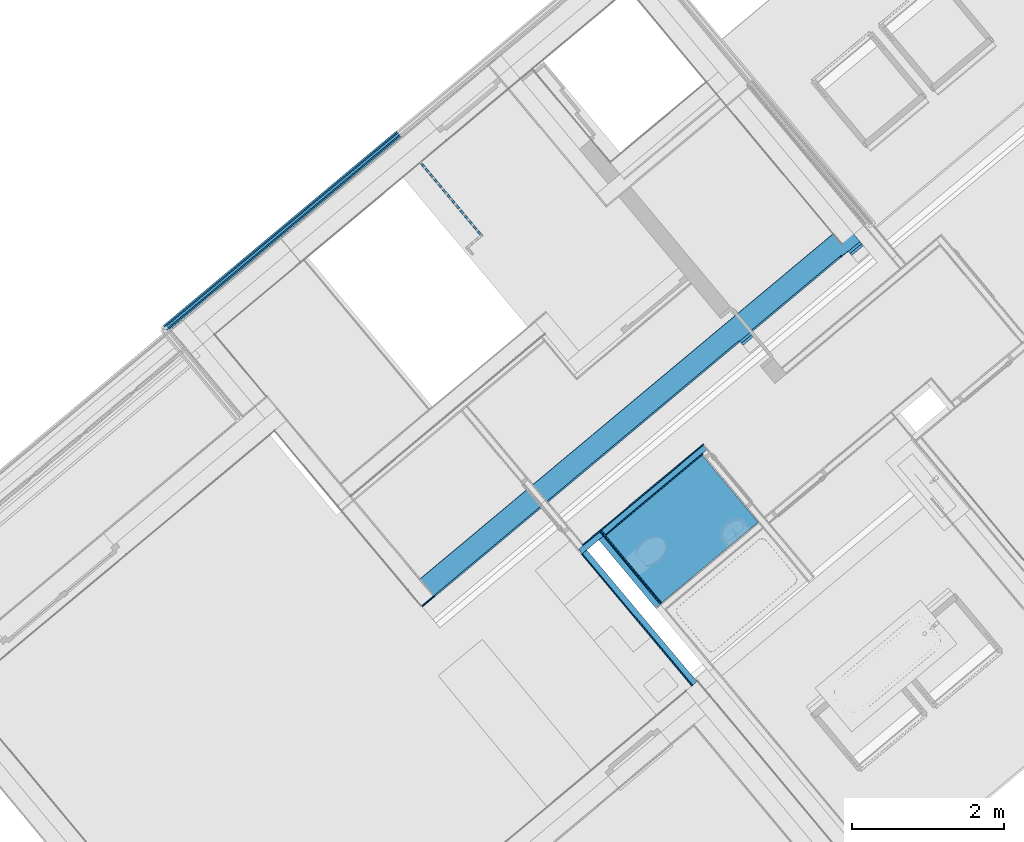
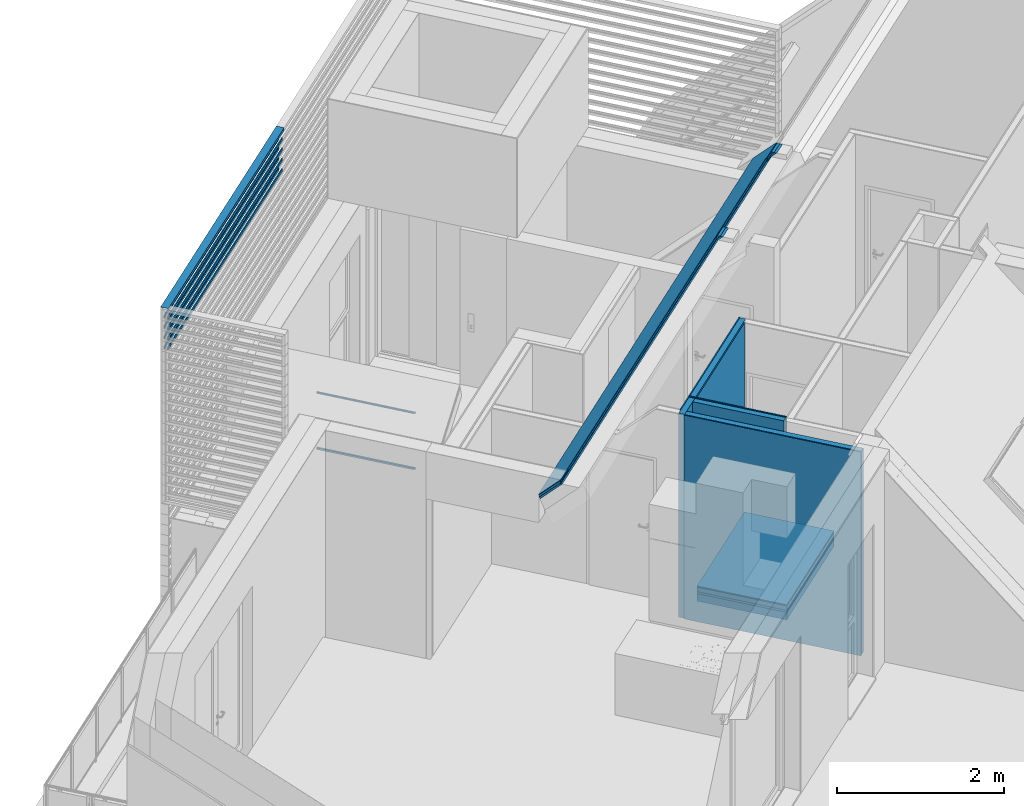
# One storey, part 23 of 47: 24 building element parts, 8 elements without a shape of their own.
"""IFC4 building model written with IfcOpenShell, lengths in metres."""

from ifc_helpers import new_model, entity, si_unit, converted_unit, derived_unit, direction, frame, origin_with_axes, place, context, subcontext, project, spatial, polygons, material, type_object, element, aggregate, save


model = new_model("IFC4")

# Units and contexts
model_context = context("Model", 3, precision=1e-05, world=origin_with_axes(), true_north=direction((0.0, 1.0)))
body_context = subcontext(model_context, "Body", "Model", "MODEL_VIEW")
ifc_project = project(units=[si_unit("LENGTHUNIT", "METRE"), si_unit("AREAUNIT", "SQUARE_METRE"), si_unit("VOLUMEUNIT", "CUBIC_METRE"), converted_unit("PLANEANGLEUNIT", "DEGREE", entity("IfcPlaneAngleMeasure", 0.0174532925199), si_unit("PLANEANGLEUNIT", "RADIAN"), dimensions=[0, 0, 0, 0, 0, 0, 0]), converted_unit("TIMEUNIT", "Year", entity("IfcTimeMeasure", 31556926.0), si_unit("TIMEUNIT", "SECOND"), dimensions=[0, 0, 1, 0, 0, 0, 0]), si_unit("MASSUNIT", "GRAM", prefix="KILO"), si_unit("THERMODYNAMICTEMPERATUREUNIT", "DEGREE_CELSIUS"), si_unit("LUMINOUSINTENSITYUNIT", "LUMEN"), si_unit("ENERGYUNIT", "JOULE", prefix="MEGA"), derived_unit("THERMALCONDUCTANCEUNIT", [(si_unit("POWERUNIT", "WATT"), 1), (si_unit("LENGTHUNIT", "METRE"), -1), (si_unit("THERMODYNAMICTEMPERATUREUNIT", "KELVIN"), -1)]), derived_unit("SPECIFICHEATCAPACITYUNIT", [(si_unit("ENERGYUNIT", "JOULE"), 1), (si_unit("MASSUNIT", "GRAM", prefix="KILO"), -1), (si_unit("THERMODYNAMICTEMPERATUREUNIT", "KELVIN"), -1)]), derived_unit("MASSDENSITYUNIT", [(si_unit("MASSUNIT", "GRAM", prefix="KILO"), 1), (si_unit("VOLUMEUNIT", "CUBIC_METRE"), -1)])], contexts=[model_context])

# Site, building, storey
site_placement = place(None, frame((-0.00153261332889, -0.00661245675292, 0.0), z_axis=(0.0, 0.0, 1.0), x_axis=(1.0, 0.0, 0.0)))
site = spatial("IfcSite", under=ifc_project, at=site_placement, Name="Site", CompositionType="ELEMENT")
building_placement = place(site_placement, origin_with_axes())
building = spatial("IfcBuilding", under=site, at=building_placement, Name="Building", CompositionType="ELEMENT")
storey_placement = place(building_placement, frame((0.0, 0.0, 8.66), z_axis=(0.0, 0.0, 1.0), x_axis=(1.0, 0.0, 0.0)))
storey = spatial("IfcBuildingStorey", under=building, at=storey_placement, Name="DG2", CompositionType="ELEMENT", Elevation=8.66)

# Roof, building element parts
roof_type = type_object("IfcRoofType", Name="Schrägdach Dachaufbau 210", PredefinedType="NOTDEFINED")
roof_placement = place(storey_placement, frame((-2.48918849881, 20.2772455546, 1.00050884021), z_axis=(0.0, 0.0, 1.0), x_axis=(0.767406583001, 0.641160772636, 0.0)))
roof = element("IfcRoof", 1, at=roof_placement, inside=storey, type_object=roof_type, Name="Dach-001", PredefinedType="NOTDEFINED")
ifc_material_1 = material(Name="Stehfalz")
building_element_part_1_placement = place(roof_placement, origin_with_axes())
building_element_part_1 = element("IfcBuildingElementPart", 2, at=building_element_part_1_placement, material=ifc_material_1, Name="Stehfalz", PredefinedType="NOTDEFINED", context=body_context, shape_type="Tessellation", body=[
    polygons([(7.36386656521, -1.90145997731, 2.19844482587), (7.69582473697, -1.90143888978, 2.19842373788), (7.69585686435, -1.59945626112, 1.89644110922), (0.21534161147, -1.5994911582, 1.8964760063), (0.215455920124, -1.9019140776, 2.1988989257), (0.43012079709, -1.90190044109, 2.19888528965), (0.430119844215, -1.88690041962, 2.18388526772), (7.36387213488, -1.88645995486, 2.18344480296), (7.69582521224, -1.90143888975, 2.18949115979), (7.36386656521, -1.90145997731, 2.18430269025), (7.4959184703, -1.90145158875, 2.18429430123), (7.49591847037, -1.90145158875, 2.18949115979), (7.69582493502, -1.90664844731, 2.18949115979), (7.69585717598, -1.60359839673, 1.88644110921), (0.215340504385, -1.60363329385, 1.88647600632), (0.215453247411, -1.90191407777, 2.18475679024), (0.215447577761, -1.88691405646, 2.16975676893), (0.215449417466, -1.8869140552, 2.1794911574), (0.215451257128, -1.89664844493, 2.17949115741), (0.430120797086, -1.90190044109, 2.18474315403), (0.430120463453, -1.89664844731, 2.17949115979), (0.430119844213, -1.88690041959, 2.17949115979), (5.8452008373, -1.88655642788, 2.16939914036), (7.39592402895, -1.88645791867, 2.16930063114), (7.39592402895, -1.88645791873, 2.17818655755), (7.36482942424, -1.88645989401, 2.17818656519), (7.36387213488, -1.88645995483, 2.17914383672), (5.64520081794, -1.88656913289, 2.16941184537), (5.64520081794, -1.88656913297, 2.17949115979), (5.8452008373, -1.88655642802, 2.17949115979), (7.36386848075, -1.89630112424, 2.17914383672), (7.36482612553, -1.89534385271, 2.17818656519), (7.39592072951, -1.89534384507, 2.17818655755), (5.84519699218, -1.89664844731, 2.17949115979), (5.64519697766, -1.89664844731, 2.17949115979), (7.49591654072, -1.90664844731, 2.18949115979)], [[[1, 2, 3, 4, 5, 6, 7, 8]], [[9, 2, 1, 10, 11, 12]], [[2, 9, 13, 14, 3]], [[4, 3, 14, 15]], [[16, 5, 4, 15, 17, 18, 19]], [[20, 6, 5, 16]], [[6, 20, 21, 22, 7]], [[23, 24, 25, 26, 27, 8, 7, 22, 18, 17, 28, 29, 30]], [[10, 1, 8, 27, 31]], [[11, 10, 31, 32, 33, 24, 23, 34, 35, 28, 17, 15, 14, 13, 36]], [[11, 36, 12]], [[36, 13, 9, 12]], [[21, 19, 18, 22]], [[20, 16, 19, 21]], [[24, 33, 25]], [[33, 32, 26, 25]], [[32, 31, 27, 26]], [[28, 35, 29]], [[35, 34, 30, 29]], [[34, 23, 30]]], closed=True),
])
ifc_material_2 = material(Name="Bauholz")
building_element_part_2_placement = place(roof_placement, origin_with_axes())
building_element_part_2 = element("IfcBuildingElementPart", 3, at=building_element_part_2_placement, material=ifc_material_2, Name="Bauholz", PredefinedType="NOTDEFINED", context=body_context, shape_type="Tessellation", body=[
    polygons([(0.215453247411, -1.90191407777, 2.18475679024), (0.430120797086, -1.90190044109, 2.18474315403), (0.430120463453, -1.89664844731, 2.17949115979), (0.215451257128, -1.89664844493, 2.17949115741), (0.430120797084, -1.90190044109, 2.17949115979), (0.215452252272, -1.90191407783, 2.1794911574)], [[[1, 2, 3, 4]], [[5, 2, 1, 6]], [[2, 5, 3]], [[5, 6, 4, 3]], [[6, 1, 4]]], closed=True),
    polygons([(7.49591846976, -1.90145158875, 2.14893896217), (7.39591845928, -1.90145794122, 2.1489453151), (7.39592402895, -1.8864579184, 2.13394529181), (5.8452008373, -1.8865564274, 2.13404380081), (5.84518352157, -1.93200378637, 2.17949115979), (5.64518350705, -1.93200378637, 2.17949115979), (5.64520081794, -1.88656913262, 2.13405650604), (0.215440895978, -1.8869140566, 2.13440143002), (0.215337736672, -1.61398863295, 1.86147600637), (7.69585795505, -1.61395373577, 1.86144110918), (7.69582305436, -1.94200378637, 2.18949115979), (7.4959034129, -1.94200378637, 2.18949115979), (7.4959184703, -1.90145158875, 2.18429430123), (7.36386656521, -1.90145997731, 2.18430269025), (7.36386656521, -1.90145997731, 2.17914383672), (7.36482385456, -1.90145991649, 2.17818656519), (7.39591845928, -1.90145794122, 2.17818655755), (7.39592072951, -1.89534384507, 2.17818655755), (7.39592402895, -1.88645791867, 2.16930063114), (5.8452008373, -1.88655642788, 2.16939914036), (5.84519699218, -1.89664844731, 2.17949115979), (5.64519697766, -1.89664844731, 2.17949115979), (5.64520081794, -1.88656913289, 2.16941184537), (0.215447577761, -1.88691405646, 2.16975676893), (0.215340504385, -1.60363329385, 1.88647600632), (7.69585717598, -1.60359839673, 1.88644110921), (7.69582493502, -1.90664844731, 2.18949115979), (7.49591654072, -1.90664844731, 2.18949115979), (7.36482612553, -1.89534385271, 2.17818656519), (7.36386848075, -1.89630112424, 2.17914383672)], [[[1, 2, 3, 4, 5, 6, 7, 8, 9, 10, 11, 12]], [[13, 14, 15, 16, 17, 2, 1]], [[2, 17, 18, 19, 3]], [[19, 20, 4, 3]], [[5, 4, 20, 21]], [[6, 5, 21, 22]], [[6, 22, 23, 7]], [[23, 24, 8, 7]], [[8, 24, 25, 9]], [[25, 26, 10, 9]], [[27, 11, 10, 26]], [[12, 11, 27, 28]], [[1, 12, 28, 13]], [[28, 27, 26, 25, 24, 23, 22, 21, 20, 19, 18, 29, 30, 14, 13]], [[15, 14, 30]], [[16, 15, 30, 29]], [[17, 16, 29, 18]]], closed=True),
])
ifc_material_3 = material(Name="Luftschicht horizontal")
building_element_part_3_placement = place(roof_placement, origin_with_axes())
building_element_part_3 = element("IfcBuildingElementPart", 4, at=building_element_part_3_placement, material=ifc_material_3, Name="Luftschicht horizontal", PredefinedType="NOTDEFINED", context=body_context, shape_type="Tessellation", body=[
    polygons([(7.69582305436, -1.94200378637, 2.18949115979), (7.69582117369, -1.97735912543, 2.18949115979), (7.69585873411, -1.6243090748, 1.83644110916), (7.69585795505, -1.61395373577, 1.86144110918), (7.49589028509, -1.97735912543, 2.18949115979), (7.4959034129, -1.94200378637, 2.18949115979), (5.64519289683, -1.90735912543, 2.11949115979), (0.215441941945, -1.90735912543, 2.11949115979), (0.215334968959, -1.62434397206, 1.83647600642), (7.49591627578, -1.90735912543, 2.11949115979), (5.84519291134, -1.90735912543, 2.11949115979), (5.84517005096, -1.96735912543, 2.17949115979), (5.64517003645, -1.96735912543, 2.17949115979), (0.215337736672, -1.61398863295, 1.86147600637), (0.215440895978, -1.8869140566, 2.13440143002), (5.64520081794, -1.88656913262, 2.13405650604), (5.64518350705, -1.93200378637, 2.17949115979), (5.84518352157, -1.93200378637, 2.17949115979), (5.8452008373, -1.8865564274, 2.13404380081), (7.39592402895, -1.8864579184, 2.13394529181), (7.39591845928, -1.90145794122, 2.1489453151), (7.49591846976, -1.90145158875, 2.14893896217), (7.49591846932, -1.90145158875, 2.11949115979), (5.64520081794, -1.88656913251, 2.11949115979), (0.215438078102, -1.88691405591, 2.11949115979), (7.39591845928, -1.90145794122, 2.11949115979), (7.39592402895, -1.88645791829, 2.11949115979), (5.8452008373, -1.8865564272, 2.11949115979)], [[[1, 2, 3, 4]], [[5, 2, 1, 6]], [[7, 8, 9, 3, 2, 5, 10, 11, 12, 13]], [[14, 4, 3, 9]], [[6, 1, 4, 14, 15, 16, 17, 18, 19, 20, 21, 22]], [[10, 5, 6, 22, 23]], [[8, 7, 24, 25]], [[8, 25, 15, 14, 9]], [[11, 10, 23, 26, 27, 28]], [[18, 12, 11, 28, 19]], [[13, 12, 18, 17]], [[7, 13, 17, 16, 24]], [[16, 15, 25, 24]], [[20, 19, 28, 27]], [[26, 21, 20, 27]], [[22, 21, 26, 23]]], closed=True),
])
aggregate(roof, [building_element_part_1, building_element_part_2, building_element_part_3])

# Wall, building element parts
wall_type_1 = type_object("IfcWallType", Name="LB 9,0 cm einfache Vorsatzschale  90", PredefinedType="NOTDEFINED")
wall_1_placement = place(storey_placement, frame((2.50035930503, 17.974688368, 0.0), z_axis=(0.0, 0.0, 1.0), x_axis=(-0.642552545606, 0.766241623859, 0.0)))
wall_1 = element("IfcWall", 5, at=wall_1_placement, inside=storey, type_object=wall_type_1, Name="Wand-006", PredefinedType="NOTDEFINED")
ifc_material_4 = material(Name="Gipskarton")
building_element_part_4_placement = place(wall_1_placement, origin_with_axes())
building_element_part_4 = element("IfcBuildingElementPart", 6, at=building_element_part_4_placement, material=ifc_material_4, Name="Gipskarton", PredefinedType="NOTDEFINED", context=body_context, shape_type="Tessellation", body=[
    polygons([(2.25310830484, 0.09, 0.0), (2.25310830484, 0.075, 0.0), (0.0, 0.075, 0.0), (0.0, 0.09, 0.0), (2.25310830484, 0.09, 2.98), (2.25310830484, 0.075, 2.98), (0.0, 0.075, 2.98), (0.0, 0.09, 2.98)], [[[1, 2, 3, 4]], [[1, 5, 6, 2]], [[2, 6, 7, 3]], [[4, 3, 7, 8]], [[5, 1, 4, 8]], [[6, 5, 8, 7]]], closed=True),
])
ifc_material_5 = material(Name="Mineralwolle weich")
building_element_part_5_placement = place(wall_1_placement, origin_with_axes())
building_element_part_5 = element("IfcBuildingElementPart", 7, at=building_element_part_5_placement, material=ifc_material_5, Name="Mineralwolle weich", PredefinedType="NOTDEFINED", context=body_context, shape_type="Tessellation", body=[
    polygons([(2.25310830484, 0.075, 0.0), (2.25310830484, 0.0555944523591, 0.0), (2.2528775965, 0.0, 0.0), (0.0, 0.0, 0.0), (0.0, 0.075, 0.0), (2.25310830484, 0.075, 2.98), (2.25310830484, 0.0555944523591, 2.98), (2.2528775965, 0.0, 2.98), (0.0, 0.0, 2.98), (0.0, 0.075, 2.98)], [[[1, 2, 3, 4, 5]], [[1, 6, 7, 2]], [[2, 7, 8, 3]], [[8, 9, 4, 3]], [[5, 4, 9, 10]], [[6, 1, 5, 10]], [[7, 6, 10, 9, 8]]], closed=True),
])
aggregate(wall_1, [building_element_part_4, building_element_part_5])

wall_2_placement = place(storey_placement, frame((0.98356534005, 19.6433934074, 0.0), z_axis=(0.0, 0.0, 1.0), x_axis=(0.768901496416, 0.639367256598, 0.0)))
wall_2 = element("IfcWall", 8, at=wall_2_placement, inside=storey, type_object=wall_type_1, Name="Wand-006", PredefinedType="NOTDEFINED")
building_element_part_6_placement = place(wall_2_placement, origin_with_axes())
building_element_part_6 = element("IfcBuildingElementPart", 9, at=building_element_part_6_placement, material=ifc_material_4, Name="Gipskarton", PredefinedType="NOTDEFINED", context=body_context, shape_type="Tessellation", body=[
    polygons([(0.388447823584, 0.075, 0.0), (0.0896849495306, 0.075, 0.0), (0.089621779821, 0.09, 0.0), (0.388411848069, 0.09, 0.0), (0.388447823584, 0.075, 2.98), (0.0896849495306, 0.075, 2.98), (0.089621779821, 0.09, 2.98), (0.388411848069, 0.09, 2.98)], [[[1, 2, 3, 4]], [[5, 6, 2, 1]], [[3, 2, 6, 7]], [[4, 3, 7, 8]], [[4, 8, 5, 1]], [[8, 7, 6, 5]]], closed=True),
])
building_element_part_7_placement = place(wall_2_placement, origin_with_axes())
building_element_part_7 = element("IfcBuildingElementPart", 10, at=building_element_part_7_placement, material=ifc_material_5, Name="Mineralwolle weich", PredefinedType="NOTDEFINED", context=body_context, shape_type="Tessellation", body=[
    polygons([(0.373447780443, 0.075, 0.0), (0.373627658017, 0.0, 0.0), (0.0150001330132, 0.0, 0.0), (0.0146888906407, 0.075, 0.0), (0.373447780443, 0.075, 2.98), (0.373627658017, 0.0, 2.98), (0.0150001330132, 0.0, 2.98), (0.0146888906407, 0.075, 2.98)], [[[1, 2, 3, 4]], [[2, 1, 5, 6]], [[2, 6, 7, 3]], [[8, 4, 3, 7]], [[5, 1, 4, 8]], [[6, 5, 8, 7]]], closed=True),
])
aggregate(wall_2, [building_element_part_6, building_element_part_7])

wall_type_2 = type_object("IfcWallType", Name="LB 10,5 cm doppelte Vorsatzschale Bad 105", PredefinedType="NOTDEFINED")
wall_3_placement = place(storey_placement, frame((1.29391531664, 19.901459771, 0.0), z_axis=(0.0, 0.0, 1.0), x_axis=(0.641209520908, -0.767365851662, 0.0)))
wall_3 = element("IfcWall", 11, at=wall_3_placement, inside=storey, type_object=wall_type_2, Name="Wand-004", PredefinedType="NOTDEFINED")
building_element_part_8_placement = place(wall_3_placement, origin_with_axes())
building_element_part_8 = element("IfcBuildingElementPart", 12, at=building_element_part_8_placement, material=ifc_material_4, Name="Gipskarton", PredefinedType="NOTDEFINED", context=body_context, shape_type="Tessellation", body=[
    polygons([(1.16178734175, 0.0, 0.0), (1.16178734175, -0.015, 0.0), (-0.090036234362, -0.015, 0.0), (-0.0900002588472, 0.0, 0.0), (1.16178734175, 0.0, 2.98), (1.16178734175, -0.015, 2.98), (-0.090036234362, -0.015, 2.98), (-0.0900002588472, 0.0, 2.98)], [[[1, 2, 3, 4]], [[1, 5, 6, 2]], [[2, 6, 7, 3]], [[4, 3, 7, 8]], [[5, 1, 4, 8]], [[6, 5, 8, 7]]], closed=True),
])
building_element_part_9_placement = place(wall_3_placement, origin_with_axes())
building_element_part_9 = element("IfcBuildingElementPart", 13, at=building_element_part_9_placement, material=ifc_material_4, Name="Gipskarton", PredefinedType="NOTDEFINED", context=body_context, shape_type="Tessellation", body=[
    polygons([(1.16178734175, -0.015, 0.0), (1.16178734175, -0.03, 0.0), (-0.0750721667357, -0.03, 0.0), (-0.0750361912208, -0.015, 0.0), (1.16178734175, -0.015, 2.98), (1.16178734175, -0.03, 2.98), (-0.0750721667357, -0.03, 2.98), (-0.0750361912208, -0.015, 2.98)], [[[1, 2, 3, 4]], [[1, 5, 6, 2]], [[2, 6, 7, 3]], [[4, 3, 7, 8]], [[5, 1, 4, 8]], [[6, 5, 8, 7]]], closed=True),
])
building_element_part_10_placement = place(wall_3_placement, origin_with_axes())
building_element_part_10 = element("IfcBuildingElementPart", 14, at=building_element_part_10_placement, material=ifc_material_5, Name="Mineralwolle weich", PredefinedType="NOTDEFINED", context=body_context, shape_type="Tessellation", body=[
    polygons([(1.16178734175, -0.03, 0.0), (1.16178734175, -0.105, 0.0), (-0.000251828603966, -0.105, 0.0), (-7.19510297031e-05, -0.03, 0.0), (1.16178734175, -0.03, 2.98), (1.16178734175, -0.105, 2.98), (-0.000251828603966, -0.105, 2.98), (-7.19510297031e-05, -0.03, 2.98)], [[[1, 2, 3, 4]], [[1, 5, 6, 2]], [[2, 6, 7, 3]], [[4, 3, 7, 8]], [[5, 1, 4, 8]], [[6, 5, 8, 7]]], closed=True),
])
aggregate(wall_3, [building_element_part_8, building_element_part_9, building_element_part_10])

wall_type_3 = type_object("IfcWallType", Name="IW LB 01 Leichtbautrennwand einfach 10,5 cm 105", PredefinedType="NOTDEFINED")
wall_4_placement = place(storey_placement, frame((1.30353329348, 19.8899494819, 0.0), z_axis=(0.0, 0.0, 1.0), x_axis=(0.767365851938, 0.641209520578, 0.0)))
wall_4 = element("IfcWall", 15, at=wall_4_placement, inside=storey, type_object=wall_type_3, Name="Wand-013", PredefinedType="NOTDEFINED")
building_element_part_11_placement = place(wall_4_placement, origin_with_axes())
building_element_part_11 = element("IfcBuildingElementPart", 16, at=building_element_part_11_placement, material=ifc_material_4, Name="Gipskarton", PredefinedType="NOTDEFINED", context=body_context, shape_type="Tessellation", body=[
    polygons([(1.75313899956, 0.09, 0.0), (0.0, 0.09, 0.0), (0.0, 0.105, 0.0), (1.7531388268, 0.105, 0.0), (1.75313899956, 0.09, 2.98), (0.0, 0.09, 2.98), (0.0, 0.105, 2.98), (1.7531388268, 0.105, 2.98)], [[[1, 2, 3, 4]], [[5, 6, 2, 1]], [[3, 2, 6, 7]], [[4, 3, 7, 8]], [[4, 8, 5, 1]], [[8, 7, 6, 5]]], closed=True),
])
building_element_part_12_placement = place(wall_4_placement, origin_with_axes())
building_element_part_12 = element("IfcBuildingElementPart", 17, at=building_element_part_12_placement, material=ifc_material_5, Name="Mineralwolle weich", PredefinedType="NOTDEFINED", context=body_context, shape_type="Tessellation", body=[
    polygons([(1.73813986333, 0.015, 0.0), (0.0, 0.015, 0.0), (0.0, 0.09, 0.0), (1.73813899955, 0.09, 0.0), (1.73813986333, 0.015, 2.98), (0.0, 0.015, 2.98), (0.0, 0.09, 2.98), (1.73813899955, 0.09, 2.98)], [[[1, 2, 3, 4]], [[5, 6, 2, 1]], [[3, 2, 6, 7]], [[4, 3, 7, 8]], [[4, 8, 5, 1]], [[8, 7, 6, 5]]], closed=True),
])
building_element_part_13_placement = place(wall_4_placement, origin_with_axes())
building_element_part_13 = element("IfcBuildingElementPart", 18, at=building_element_part_13_placement, material=ifc_material_4, Name="Gipskarton", PredefinedType="NOTDEFINED", context=body_context, shape_type="Tessellation", body=[
    polygons([(1.66314003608, 0.0, 0.0), (0.0, 0.0, 0.0), (0.0, 0.015, 0.0), (1.66313986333, 0.015, 0.0), (1.66314003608, 0.0, 2.98), (0.0, 0.0, 2.98), (0.0, 0.015, 2.98), (1.66313986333, 0.015, 2.98)], [[[1, 2, 3, 4]], [[5, 6, 2, 1]], [[3, 2, 6, 7]], [[4, 3, 7, 8]], [[4, 8, 5, 1]], [[8, 7, 6, 5]]], closed=True),
])
aggregate(wall_4, [building_element_part_11, building_element_part_12, building_element_part_13])

# Curtain wall, building element parts
curtain_wall_type = type_object("IfcCurtainWallType", Name="Fassadentyp", PredefinedType="NOTDEFINED")
curtain_wall_placement = place(storey_placement, frame((-2.95253507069, 23.8775371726, 0.32), z_axis=(0.0, 0.0, 1.0), x_axis=(1.0, 0.0, 0.0)))
curtain_wall = element("IfcCurtainWall", 19, at=curtain_wall_placement, inside=storey, type_object=curtain_wall_type, Name="Fassade-001", PredefinedType="NOTDEFINED")
ifc_material_6 = material(Name="Blech")
building_element_part_14_placement = place(curtain_wall_placement, origin_with_axes())
building_element_part_14 = element("IfcBuildingElementPart", 20, at=building_element_part_14_placement, material=ifc_material_6, Name="Blech", PredefinedType="NOTDEFINED", context=body_context, shape_type="Tessellation", body=[
    polygons([(-1.51294866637, -1.28196990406, 3.75), (-1.51294866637, -1.28196990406, 3.77), (1.54752517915, 1.27174910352, 3.77), (1.54752517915, 1.27174910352, 3.75), (1.54752517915, 1.27174910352, 3.73), (-1.51294866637, -1.28196990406, 3.73), (-1.50333851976, -1.29348706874, 3.73), (-1.50333851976, -1.29348706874, 3.77), (1.55713532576, 1.26023193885, 3.77), (1.55713532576, 1.26023193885, 3.73)], [[[1, 2, 3, 4, 5, 6]], [[6, 7, 8, 2, 1]], [[3, 2, 8, 9]], [[4, 3, 9, 10, 5]], [[5, 10, 7, 6]], [[10, 9, 8, 7]]], closed=True),
    polygons([(1.52830488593, 1.29478343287, 3.73), (1.51869473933, 1.30630059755, 3.73), (1.51869473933, 1.30630059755, 3.77), (1.52830488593, 1.29478343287, 3.77), (1.52830488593, 1.29478343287, 3.75), (-1.53216895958, -1.25893557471, 3.73), (-1.54177910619, -1.24741841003, 3.73), (-1.54177910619, -1.24741841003, 3.77), (-1.53216895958, -1.25893557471, 3.77), (-1.53216895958, -1.25893557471, 3.75)], [[[1, 2, 3, 4, 5]], [[6, 7, 2, 1]], [[3, 2, 7, 8]], [[9, 4, 3, 8]], [[5, 4, 9, 10, 6, 1]], [[10, 9, 8, 7, 6]]], closed=True),
])
building_element_part_15_placement = place(curtain_wall_placement, origin_with_axes())
building_element_part_15 = element("IfcBuildingElementPart", 21, at=building_element_part_15_placement, material=ifc_material_6, Name="Blech", PredefinedType="NOTDEFINED", context=body_context, shape_type="Tessellation", body=[
    polygons([(-1.51294866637, -1.28196990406, 3.9), (-1.51294866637, -1.28196990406, 3.92), (1.54752517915, 1.27174910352, 3.92), (1.54752517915, 1.27174910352, 3.9), (1.54752517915, 1.27174910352, 3.88), (-1.51294866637, -1.28196990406, 3.88), (-1.50333851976, -1.29348706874, 3.88), (-1.50333851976, -1.29348706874, 3.92), (1.55713532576, 1.26023193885, 3.92), (1.55713532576, 1.26023193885, 3.88)], [[[1, 2, 3, 4, 5, 6]], [[6, 7, 8, 2, 1]], [[3, 2, 8, 9]], [[4, 3, 9, 10, 5]], [[5, 10, 7, 6]], [[10, 9, 8, 7]]], closed=True),
    polygons([(1.52830488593, 1.29478343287, 3.88), (1.51869473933, 1.30630059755, 3.88), (1.51869473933, 1.30630059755, 3.92), (1.52830488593, 1.29478343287, 3.92), (1.52830488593, 1.29478343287, 3.9), (-1.53216895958, -1.25893557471, 3.88), (-1.54177910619, -1.24741841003, 3.88), (-1.54177910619, -1.24741841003, 3.92), (-1.53216895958, -1.25893557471, 3.92), (-1.53216895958, -1.25893557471, 3.9)], [[[1, 2, 3, 4, 5]], [[6, 7, 2, 1]], [[3, 2, 7, 8]], [[9, 4, 3, 8]], [[5, 4, 9, 10, 6, 1]], [[10, 9, 8, 7, 6]]], closed=True),
])
building_element_part_16_placement = place(curtain_wall_placement, origin_with_axes())
building_element_part_16 = element("IfcBuildingElementPart", 22, at=building_element_part_16_placement, material=ifc_material_6, Name="Blech", PredefinedType="NOTDEFINED", context=body_context, shape_type="Tessellation", body=[
    polygons([(-1.51294866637, -1.28196990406, 4.05), (-1.51294866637, -1.28196990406, 4.07), (1.54752517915, 1.27174910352, 4.07), (1.54752517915, 1.27174910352, 4.05), (1.54752517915, 1.27174910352, 4.03), (-1.51294866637, -1.28196990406, 4.03), (-1.50333851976, -1.29348706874, 4.03), (-1.50333851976, -1.29348706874, 4.07), (1.55713532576, 1.26023193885, 4.07), (1.55713532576, 1.26023193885, 4.03)], [[[1, 2, 3, 4, 5, 6]], [[6, 7, 8, 2, 1]], [[3, 2, 8, 9]], [[4, 3, 9, 10, 5]], [[5, 10, 7, 6]], [[10, 9, 8, 7]]], closed=True),
    polygons([(1.52830488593, 1.29478343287, 4.03), (1.51869473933, 1.30630059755, 4.03), (1.51869473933, 1.30630059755, 4.07), (1.52830488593, 1.29478343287, 4.07), (1.52830488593, 1.29478343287, 4.05), (-1.53216895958, -1.25893557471, 4.03), (-1.54177910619, -1.24741841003, 4.03), (-1.54177910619, -1.24741841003, 4.07), (-1.53216895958, -1.25893557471, 4.07), (-1.53216895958, -1.25893557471, 4.05)], [[[1, 2, 3, 4, 5]], [[6, 7, 2, 1]], [[3, 2, 7, 8]], [[9, 4, 3, 8]], [[5, 4, 9, 10, 6, 1]], [[10, 9, 8, 7, 6]]], closed=True),
])
building_element_part_17_placement = place(curtain_wall_placement, origin_with_axes())
building_element_part_17 = element("IfcBuildingElementPart", 23, at=building_element_part_17_placement, material=ifc_material_6, Name="Blech", PredefinedType="NOTDEFINED", context=body_context, shape_type="Tessellation", body=[
    polygons([(-1.51294866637, -1.28196990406, 4.2), (-1.51294866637, -1.28196990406, 4.22), (1.54752517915, 1.27174910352, 4.22), (1.54752517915, 1.27174910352, 4.2), (1.54752517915, 1.27174910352, 4.18), (-1.51294866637, -1.28196990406, 4.18), (-1.50333851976, -1.29348706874, 4.18), (-1.50333851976, -1.29348706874, 4.22), (1.55713532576, 1.26023193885, 4.22), (1.55713532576, 1.26023193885, 4.18)], [[[1, 2, 3, 4, 5, 6]], [[6, 7, 8, 2, 1]], [[3, 2, 8, 9]], [[4, 3, 9, 10, 5]], [[5, 10, 7, 6]], [[10, 9, 8, 7]]], closed=True),
    polygons([(1.52830488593, 1.29478343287, 4.18), (1.51869473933, 1.30630059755, 4.18), (1.51869473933, 1.30630059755, 4.22), (1.52830488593, 1.29478343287, 4.22), (1.52830488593, 1.29478343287, 4.2), (-1.53216895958, -1.25893557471, 4.18), (-1.54177910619, -1.24741841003, 4.18), (-1.54177910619, -1.24741841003, 4.22), (-1.53216895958, -1.25893557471, 4.22), (-1.53216895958, -1.25893557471, 4.2)], [[[1, 2, 3, 4, 5]], [[6, 7, 2, 1]], [[3, 2, 7, 8]], [[9, 4, 3, 8]], [[5, 4, 9, 10, 6, 1]], [[10, 9, 8, 7, 6]]], closed=True),
])
building_element_part_18_placement = place(curtain_wall_placement, origin_with_axes())
building_element_part_18 = element("IfcBuildingElementPart", 24, at=building_element_part_18_placement, material=ifc_material_6, Name="Blech", PredefinedType="NOTDEFINED", context=body_context, shape_type="Tessellation", body=[
    polygons([(1.54752517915, 1.27174910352, 4.35000006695), (1.52830488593, 1.29478343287, 4.35000006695), (1.52830488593, 1.29478343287, 4.33000006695), (1.50588121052, 1.32165681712, 4.33000006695), (1.50588121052, 1.32165681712, 4.37000006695), (1.56994885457, 1.24487571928, 4.37000006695), (1.56994885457, 1.24487571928, 4.33000006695), (1.54752517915, 1.27174910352, 4.33000006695), (-1.52830488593, -1.29478343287, 4.35000006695), (-1.54752517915, -1.27174910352, 4.35000006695), (-1.53216895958, -1.25893557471, 4.33000006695), (-1.554592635, -1.23206219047, 4.33000006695), (-1.58530507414, -1.25768924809, 4.37000006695), (-1.52123743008, -1.33447034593, 4.37000006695), (-1.49052499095, -1.3088432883, 4.33000006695), (-1.51294866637, -1.28196990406, 4.33000006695)], [[[1, 2, 3, 4, 5, 6, 7, 8]], [[2, 1, 9, 10]], [[11, 3, 2, 10]], [[3, 11, 12, 4]], [[5, 4, 12, 13]], [[6, 5, 13, 14]], [[7, 6, 14, 15]], [[16, 8, 7, 15]], [[1, 8, 16, 9]], [[9, 16, 15, 14, 13, 12, 11, 10]]], closed=True),
])
aggregate(curtain_wall, [building_element_part_14, building_element_part_15, building_element_part_16, building_element_part_17, building_element_part_18])

# Covering, building element parts
covering_type = type_object("IfcCoveringType", Name="DE 01 Decke Wohnung/Wohnung Fließen 220", PredefinedType="NOTDEFINED")
covering_placement = place(storey_placement, frame((1.30353329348, 19.8899494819, 0.22), z_axis=(0.0, 0.0, 1.0), x_axis=(1.0, 0.0, 0.0)))
covering = element("IfcCovering", 25, at=covering_placement, inside=storey, type_object=covering_type, Name="Decke-004", PredefinedType="NOTDEFINED")
ifc_material_7 = material(Name="Fliesen")
building_element_part_19_placement = place(covering_placement, origin_with_axes())
building_element_part_19 = element("IfcBuildingElementPart", 26, at=building_element_part_19_placement, material=ifc_material_7, Name="Fliesen", PredefinedType="NOTDEFINED", context=body_context, shape_type="Tessellation", body=[
    polygons([(0.73533112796, -0.880005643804, -0.015), (0.73533112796, -0.880005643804, 0.0), (0.0, 0.0, 0.0), (0.0, 0.0, -0.015), (2.00053493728, 0.176246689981, -0.015), (2.00053493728, 0.176246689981, 0.0), (1.2647263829, 1.05680308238, 0.0), (1.2647263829, 1.05680308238, -0.015)], [[[1, 2, 3, 4]], [[5, 6, 2, 1]], [[3, 2, 6, 7]], [[4, 3, 7, 8]], [[4, 8, 5, 1]], [[8, 7, 6, 5]]], closed=True),
])
ifc_material_8 = material(Name="Estrich")
building_element_part_20_placement = place(covering_placement, origin_with_axes())
building_element_part_20 = element("IfcBuildingElementPart", 27, at=building_element_part_20_placement, material=ifc_material_8, Name="Estrich", PredefinedType="NOTDEFINED", context=body_context, shape_type="Tessellation", body=[
    polygons([(0.73533112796, -0.880005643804, -0.08), (0.73533112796, -0.880005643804, -0.015), (0.0, 0.0, -0.015), (0.0, 0.0, -0.08), (2.00053493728, 0.176246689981, -0.08), (2.00053493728, 0.176246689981, -0.015), (1.2647263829, 1.05680308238, -0.015), (1.2647263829, 1.05680308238, -0.08)], [[[1, 2, 3, 4]], [[5, 6, 2, 1]], [[3, 2, 6, 7]], [[4, 3, 7, 8]], [[4, 8, 5, 1]], [[8, 7, 6, 5]]], closed=True),
])
ifc_material_9 = material(Name="Trittschalldämmung")
building_element_part_21_placement = place(covering_placement, origin_with_axes())
building_element_part_21 = element("IfcBuildingElementPart", 28, at=building_element_part_21_placement, material=ifc_material_9, Name="Trittschalldämmung", PredefinedType="NOTDEFINED", context=body_context, shape_type="Tessellation", body=[
    polygons([(0.73533112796, -0.880005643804, -0.11), (0.73533112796, -0.880005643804, -0.08), (0.0, 0.0, -0.08), (0.0, 0.0, -0.11), (2.00053493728, 0.176246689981, -0.11), (2.00053493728, 0.176246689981, -0.08), (1.2647263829, 1.05680308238, -0.08), (1.2647263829, 1.05680308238, -0.11)], [[[1, 2, 3, 4]], [[5, 6, 2, 1]], [[3, 2, 6, 7]], [[4, 3, 7, 8]], [[4, 8, 5, 1]], [[8, 7, 6, 5]]], closed=True),
])
ifc_material_10 = material(Name="Schüttung")
building_element_part_22_placement = place(covering_placement, origin_with_axes())
building_element_part_22 = element("IfcBuildingElementPart", 29, at=building_element_part_22_placement, material=ifc_material_10, Name="Schüttung", PredefinedType="NOTDEFINED", context=body_context, shape_type="Tessellation", body=[
    polygons([(0.0, 0.0, -0.22), (0.73533112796, -0.880005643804, -0.22), (0.73533112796, -0.880005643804, -0.11), (0.0, 0.0, -0.11), (1.2647263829, 1.05680308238, -0.22), (2.00053493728, 0.176246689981, -0.22), (2.00053493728, 0.176246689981, -0.11), (1.2647263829, 1.05680308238, -0.11)], [[[1, 2, 3, 4]], [[1, 5, 6, 2]], [[2, 6, 7, 3]], [[4, 3, 7, 8]], [[5, 1, 4, 8]], [[6, 5, 8, 7]]], closed=True),
])
aggregate(covering, [building_element_part_19, building_element_part_20, building_element_part_21, building_element_part_22])

# Railing, building element parts
railing_type = type_object("IfcRailingType", Name="Geländerart", PredefinedType="NOTDEFINED")
railing_placement = place(storey_placement, frame((-1.1650889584, 24.7530172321, 0.05), z_axis=(0.0, 0.0, 1.0), x_axis=(1.0, 0.0, 0.0)))
railing = element("IfcRailing", 30, at=railing_placement, inside=storey, type_object=railing_type, Name="Geländer - 001", PredefinedType="NOTDEFINED")
ifc_material_11 = material(Name="BEKLEIDUNG")
building_element_part_23_placement = place(railing_placement, origin_with_axes())
building_element_part_23 = element("IfcBuildingElementPart", 31, at=building_element_part_23_placement, material=ifc_material_11, Name="BEKLEIDUNG", PredefinedType="NOTDEFINED", context=body_context, shape_type="Tessellation", body=[
    polygons([(0.0498809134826, 0.0416760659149, 0.885), (0.0497060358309, 0.0415299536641, 0.887604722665), (0.858488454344, -0.926479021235, 0.887604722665), (0.858808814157, -0.9265070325, 0.885), (0.0497060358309, 0.0415299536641, 0.882395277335), (0.0491867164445, 0.0410960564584, 0.87986969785), (0.0483387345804, 0.040387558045, 0.8775), (0.0471878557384, 0.0394259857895, 0.875358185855), (0.0457690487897, 0.0382405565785, 0.873509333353), (0.0441254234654, 0.0368672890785, 0.872009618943), (0.0423069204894, 0.0353479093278, 0.870904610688), (0.0403687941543, 0.0337285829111, 0.870227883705), (0.0383699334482, 0.0320585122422, 0.87), (0.036371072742, 0.0303884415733, 0.870227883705), (0.034432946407, 0.0287691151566, 0.870904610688), (0.0326144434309, 0.0272497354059, 0.872009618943), (0.0309708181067, 0.0258764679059, 0.873509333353), (0.0295520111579, 0.0246910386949, 0.875358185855), (0.0284011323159, 0.0237294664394, 0.8775), (0.0275531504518, 0.023020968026, 0.87986969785), (0.0270338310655, 0.0225870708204, 0.882395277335), (0.0268589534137, 0.0224409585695, 0.885), (0.0270338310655, 0.0225870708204, 0.887604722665), (0.0275531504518, 0.023020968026, 0.89013030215), (0.0284011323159, 0.0237294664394, 0.8925), (0.0295520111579, 0.0246910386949, 0.894641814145), (0.0309708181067, 0.0258764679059, 0.896490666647), (0.0326144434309, 0.0272497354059, 0.897990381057), (0.034432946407, 0.0287691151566, 0.899095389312), (0.036371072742, 0.0303884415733, 0.899772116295), (0.0383699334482, 0.0320585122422, 0.9), (0.0403687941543, 0.0337285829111, 0.899772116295), (0.0423069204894, 0.0353479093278, 0.899095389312), (0.0441254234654, 0.0368672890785, 0.897990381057), (0.0457690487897, 0.0382405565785, 0.896490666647), (0.0471878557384, 0.0394259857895, 0.894641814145), (0.0483387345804, 0.040387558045, 0.8925), (0.0491867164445, 0.0410960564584, 0.89013030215), (0.857537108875, -0.926395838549, 0.89013030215), (0.855983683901, -0.926260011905, 0.8925), (0.853875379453, -0.926075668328, 0.894641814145), (0.851276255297, -0.925848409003, 0.896490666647), (0.848265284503, -0.925585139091, 0.897990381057), (0.844933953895, -0.925293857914, 0.899095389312), (0.84138348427, -0.924983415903, 0.899772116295), (0.837721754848, -0.924663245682, 0.9), (0.834060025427, -0.924343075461, 0.899772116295), (0.830509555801, -0.92403263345, 0.899095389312), (0.827178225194, -0.923741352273, 0.897990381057), (0.8241672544, -0.92347808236, 0.896490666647), (0.821568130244, -0.923250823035, 0.894641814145), (0.819459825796, -0.923066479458, 0.8925), (0.817906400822, -0.922930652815, 0.89013030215), (0.816955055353, -0.922847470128, 0.887604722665), (0.81663469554, -0.922819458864, 0.885), (0.816955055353, -0.922847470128, 0.882395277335), (0.817906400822, -0.922930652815, 0.87986969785), (0.819459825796, -0.923066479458, 0.8775), (0.821568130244, -0.923250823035, 0.875358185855), (0.8241672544, -0.92347808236, 0.873509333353), (0.827178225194, -0.923741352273, 0.872009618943), (0.830509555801, -0.92403263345, 0.870904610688), (0.834060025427, -0.924343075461, 0.870227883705), (0.837721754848, -0.924663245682, 0.87), (0.84138348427, -0.924983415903, 0.870227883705), (0.844933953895, -0.925293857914, 0.870904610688), (0.848265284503, -0.925585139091, 0.872009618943), (0.851276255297, -0.925848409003, 0.873509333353), (0.853875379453, -0.926075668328, 0.875358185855), (0.855983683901, -0.926260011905, 0.8775), (0.857537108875, -0.926395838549, 0.87986969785), (0.858488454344, -0.926479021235, 0.882395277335)], [[[1, 2, 3, 4]], [[1, 5, 6, 7, 8, 9, 10, 11, 12, 13, 14, 15, 16, 17, 18, 19, 20, 21, 22, 23, 24, 25, 26, 27, 28, 29, 30, 31, 32, 33, 34, 35, 36, 37, 38, 2]], [[2, 38, 39, 3]], [[4, 3, 39, 40, 41, 42, 43, 44, 45, 46, 47, 48, 49, 50, 51, 52, 53, 54, 55, 56, 57, 58, 59, 60, 61, 62, 63, 64, 65, 66, 67, 68, 69, 70, 71, 72]], [[5, 1, 4, 72]], [[6, 5, 72, 71]], [[7, 6, 71, 70]], [[8, 7, 70, 69]], [[9, 8, 69, 68]], [[10, 9, 68, 67]], [[11, 10, 67, 66]], [[12, 11, 66, 65]], [[13, 12, 65, 64]], [[14, 13, 64, 63]], [[15, 14, 63, 62]], [[16, 15, 62, 61]], [[17, 16, 61, 60]], [[18, 17, 60, 59]], [[19, 18, 59, 58]], [[20, 19, 58, 57]], [[21, 20, 57, 56]], [[22, 21, 56, 55]], [[23, 22, 55, 54]], [[24, 23, 54, 53]], [[25, 24, 53, 52]], [[26, 25, 52, 51]], [[27, 26, 51, 50]], [[28, 27, 50, 49]], [[29, 28, 49, 48]], [[30, 29, 48, 47]], [[31, 30, 47, 46]], [[32, 31, 46, 45]], [[33, 32, 45, 44]], [[34, 33, 44, 43]], [[35, 34, 43, 42]], [[36, 35, 42, 41]], [[37, 36, 41, 40]], [[38, 37, 40, 39]]], closed=True),
])
building_element_part_24_placement = place(railing_placement, origin_with_axes())
building_element_part_24 = element("IfcBuildingElementPart", 32, at=building_element_part_24_placement, material=ifc_material_11, Name="BEKLEIDUNG", PredefinedType="NOTDEFINED", context=body_context, shape_type="Tessellation", body=[
    polygons([(0.0287774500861, 0.0240438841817, 0.0825), (0.0287774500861, 0.0240438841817, 0.0575), (0.820149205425, -0.923126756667, 0.0575), (0.820149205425, -0.923126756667, 0.0825), (0.0479624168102, 0.0400731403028, 0.0825), (0.0479624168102, 0.0400731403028, 0.0575), (0.855294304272, -0.926199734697, 0.0575), (0.855294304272, -0.926199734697, 0.0825)], [[[1, 2, 3, 4]], [[1, 5, 6, 2]], [[2, 6, 7, 3]], [[4, 3, 7, 8]], [[5, 1, 4, 8]], [[6, 5, 8, 7]]], closed=True),
])
aggregate(railing, [building_element_part_23, building_element_part_24])

save(model, "model.ifc")
